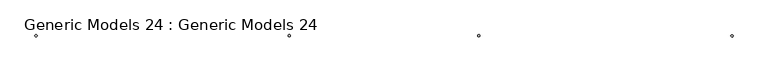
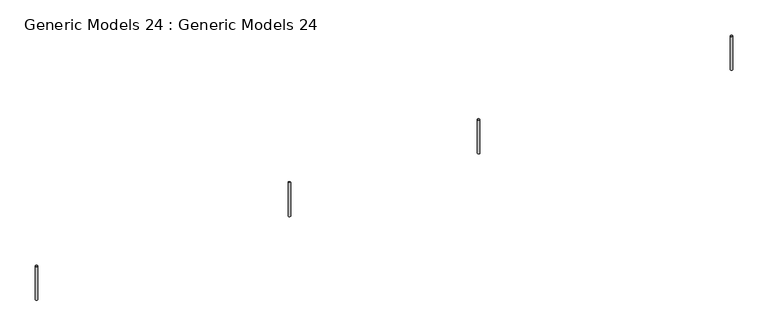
"""IFC4 building model written with IfcOpenShell, lengths in millimetres: proxy geometry, Generic Models 24 : Generic Models 24."""

from ifc_helpers import new_model, si_unit, point, frame, frame_2d, origin, place, context, project, spatial, circle_curve, trimmed, segment, composite_curve, outline, extrude, source, transform, mapped, element, save


def generic_models_24_generic_models_24_b97e8785(model_context):
    return source(origin(), model_context, "Body", "SweptSolid", [
        extrude(outline(composite_curve([segment(trimmed(circle_curve(frame_2d((-128939.433365, -30844.6568294)), 100.0), [point((-129027.8075729, -30797.8594001))], [point((-128851.0591571, -30891.4542586))], False, "CARTESIAN"), True, "CONTINUOUS"), segment(trimmed(circle_curve(frame_2d((-128939.433365, -30844.6568294)), 100.0), [point((-128851.0591571, -30891.4542586))], [point((-129027.8075729, -30797.8594001))], False, "CARTESIAN"), True, "CONTINUOUS")], self_intersect=False)), frame((0.0, 0.0, 48300.3515496), z_axis=(0.0, 0.0, 1.0), x_axis=(1.0, 0.0, 0.0)), (0.0, 0.0, 1.0), 3371.5801472),
        extrude(outline(composite_curve([segment(trimmed(circle_curve(frame_2d((-104987.9406706, -30841.1364822)), 100.0), [point((-105076.3148785, -30794.339053))], [point((-104899.5664628, -30887.9339114))], False, "CARTESIAN"), True, "CONTINUOUS"), segment(trimmed(circle_curve(frame_2d((-104987.9406706, -30841.1364822)), 100.0), [point((-104899.5664628, -30887.9339114))], [point((-105076.3148785, -30794.339053))], False, "CARTESIAN"), True, "CONTINUOUS")], self_intersect=False)), frame((0.0, 0.0, 48300.3515496), z_axis=(0.0, 0.0, 1.0), x_axis=(1.0, 0.0, 0.0)), (0.0, 0.0, 1.0), 3371.5801472),
        extrude(outline(composite_curve([segment(trimmed(circle_curve(frame_2d((-87047.9406706, -30841.1364822)), 100.0), [point((-87136.3148785, -30794.339053))], [point((-86959.5664628, -30887.9339114))], False, "CARTESIAN"), True, "CONTINUOUS"), segment(trimmed(circle_curve(frame_2d((-87047.9406706, -30841.1364822)), 100.0), [point((-86959.5664628, -30887.9339114))], [point((-87136.3148785, -30794.339053))], False, "CARTESIAN"), True, "CONTINUOUS")], self_intersect=False)), frame((0.0, 0.0, 48300.3515496), z_axis=(0.0, 0.0, 1.0), x_axis=(1.0, 0.0, 0.0)), (0.0, 0.0, 1.0), 3371.5801472),
        extrude(outline(composite_curve([segment(trimmed(circle_curve(frame_2d((-63104.5860752, -30851.7574956)), 100.0), [point((-63192.9602831, -30804.9600663))], [point((-63016.2118673, -30898.5549248))], False, "CARTESIAN"), True, "CONTINUOUS"), segment(trimmed(circle_curve(frame_2d((-63104.5860752, -30851.7574956)), 100.0), [point((-63016.2118673, -30898.5549248))], [point((-63192.9602831, -30804.9600663))], False, "CARTESIAN"), True, "CONTINUOUS")], self_intersect=False)), frame((0.0, 0.0, 48300.3515496), z_axis=(0.0, 0.0, 1.0), x_axis=(1.0, 0.0, 0.0)), (0.0, 0.0, 1.0), 3371.5801472),
    ])


if __name__ == "__main__":
    model = new_model("IFC4")
    model_context = context("Model", 3, world=origin())
    ifc_project = project(units=[si_unit("LENGTHUNIT", "METRE", prefix="MILLI")], contexts=[model_context])
    site = spatial("IfcSite", under=ifc_project)
    building = spatial("IfcBuilding", under=site)
    placement = place(None, origin())
    generic_models_24_generic_models_24_shape = generic_models_24_generic_models_24_b97e8785(model_context)
    element("IfcBuildingElementProxy", 1, Name="Generic Models 24 : Generic Models 24", ObjectType="Generic Models 24 : Generic Models 24", at=placement, inside=building, context=model_context, shape_type="MappedRepresentation", body=[
        mapped(generic_models_24_generic_models_24_shape, transform((0.0, 0.0, 0.0), x_axis=(1.0, 0.0, 0.0), y_axis=(0.0, 1.0, 0.0), z_axis=(0.0, 0.0, 1.0))),
    ])
    save(model, "model.ifc")
